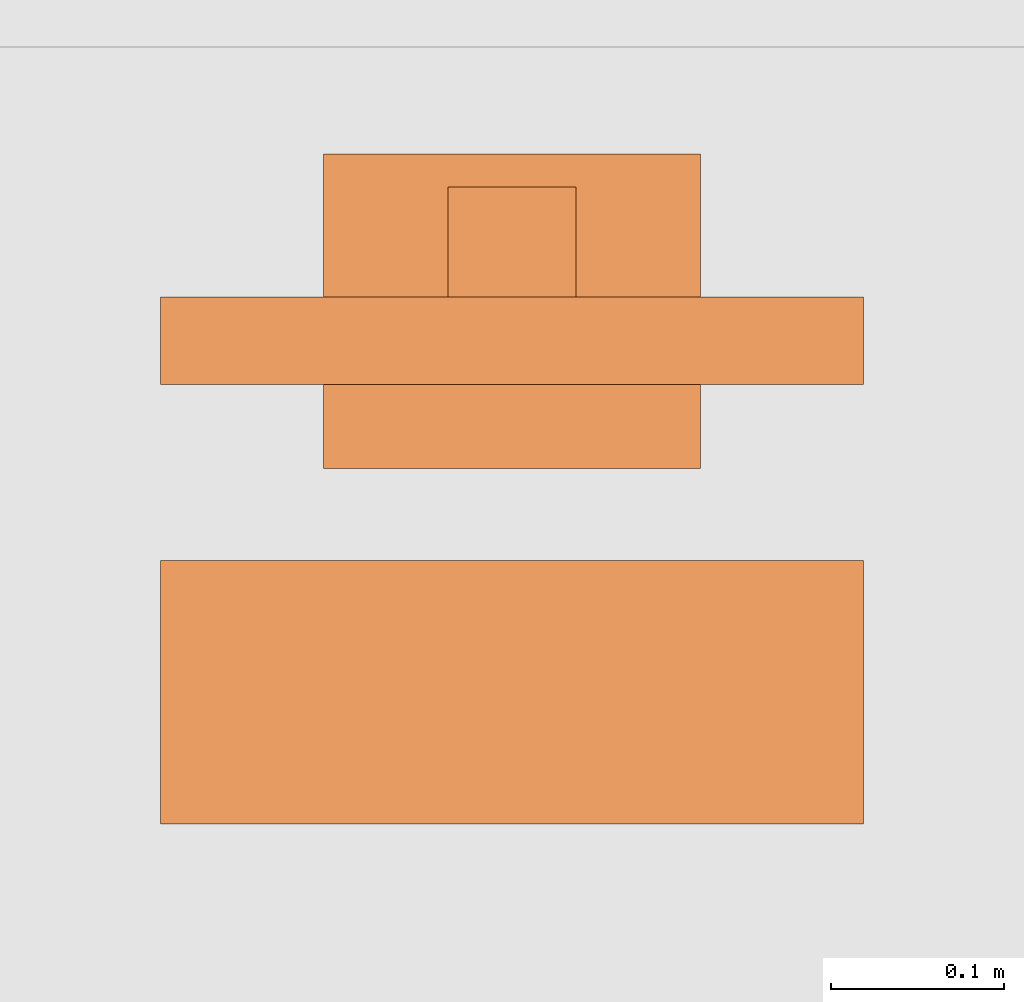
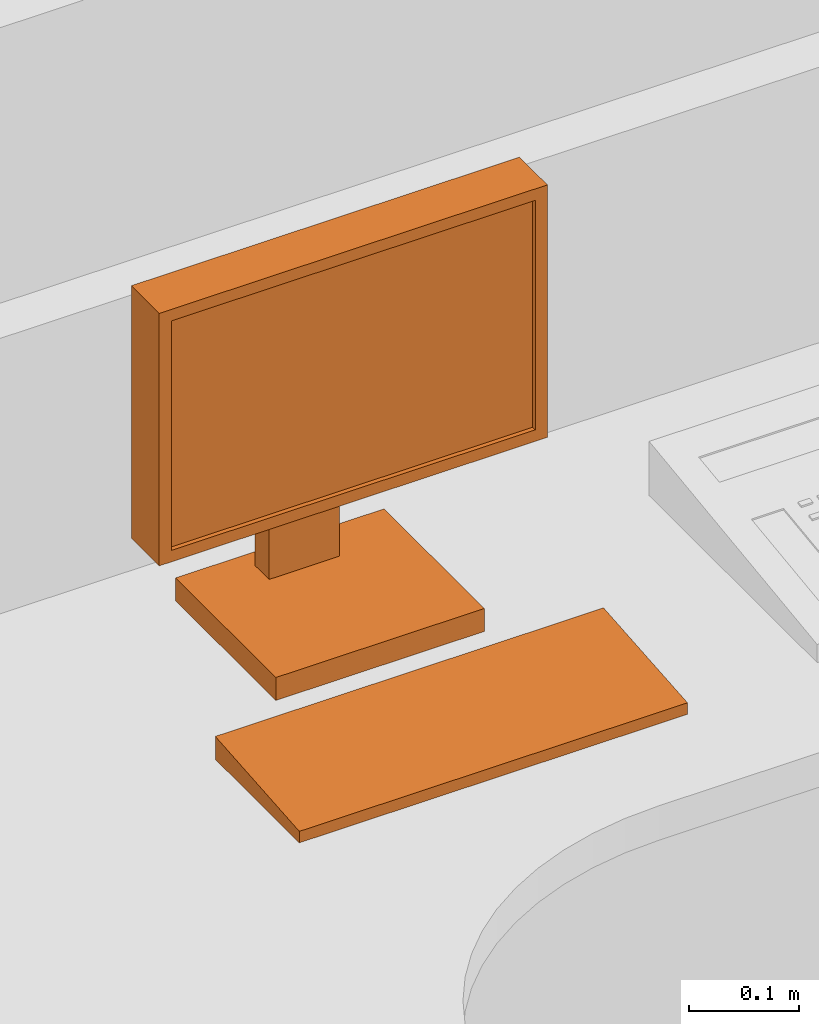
# One storey, part 133 of 142: 1 proxy.
"""IFC2X3 building model written with IfcOpenShell, lengths in feet."""

from ifc_helpers import new_model, entity, si_unit, converted_unit, derived_unit, direction, frame, origin, place, context, subcontext, project, spatial, faceted_brep, source, transform, mapped, type_object, type_shapes, element, save


model = new_model("IFC2X3")

# Units and contexts
model_context = context("Model", 3, precision=0.0001, world=origin(), true_north=direction((6.12303176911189e-17, 1.0)))
body_context = subcontext(model_context, "Body", "Model", "MODEL_VIEW")
ifc_project = project(units=[converted_unit("LENGTHUNIT", "FOOT", entity("IfcRatioMeasure", 0.3048), si_unit("LENGTHUNIT", "METRE"), dimensions=[1, 0, 0, 0, 0, 0, 0]), converted_unit("AREAUNIT", "SQUARE FOOT", entity("IfcRatioMeasure", 0.09290304), si_unit("AREAUNIT", "SQUARE_METRE"), dimensions=[2, 0, 0, 0, 0, 0, 0]), converted_unit("VOLUMEUNIT", "CUBIC FOOT", entity("IfcRatioMeasure", 0.028316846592), si_unit("VOLUMEUNIT", "CUBIC_METRE"), dimensions=[3, 0, 0, 0, 0, 0, 0]), converted_unit("PLANEANGLEUNIT", "DEGREE", entity("IfcRatioMeasure", 0.0174532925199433), si_unit("PLANEANGLEUNIT", "RADIAN"), dimensions=[0, 0, 0, 0, 0, 0, 0]), si_unit("MASSUNIT", "GRAM", prefix="KILO"), derived_unit("MASSDENSITYUNIT", [(si_unit("MASSUNIT", "GRAM", prefix="KILO"), 1), (si_unit("LENGTHUNIT", "METRE"), -3)]), si_unit("TIMEUNIT", "SECOND"), si_unit("FREQUENCYUNIT", "HERTZ"), si_unit("THERMODYNAMICTEMPERATUREUNIT", "DEGREE_CELSIUS"), derived_unit("THERMALTRANSMITTANCEUNIT", [(si_unit("MASSUNIT", "GRAM", prefix="KILO"), 1), (si_unit("THERMODYNAMICTEMPERATUREUNIT", "KELVIN"), -1), (si_unit("TIMEUNIT", "SECOND"), -3)]), derived_unit("VOLUMETRICFLOWRATEUNIT", [(si_unit("LENGTHUNIT", "METRE"), 3), (si_unit("TIMEUNIT", "SECOND"), -1)]), si_unit("ELECTRICCURRENTUNIT", "AMPERE"), si_unit("ELECTRICVOLTAGEUNIT", "VOLT"), si_unit("POWERUNIT", "WATT"), si_unit("FORCEUNIT", "NEWTON"), si_unit("ILLUMINANCEUNIT", "LUX"), si_unit("LUMINOUSFLUXUNIT", "LUMEN"), si_unit("LUMINOUSINTENSITYUNIT", "CANDELA"), derived_unit("USERDEFINED", [(si_unit("MASSUNIT", "GRAM", prefix="KILO"), -1), (si_unit("LENGTHUNIT", "METRE"), -2), (si_unit("TIMEUNIT", "SECOND"), 3), (si_unit("LUMINOUSFLUXUNIT", "LUMEN"), 1)]), derived_unit("LINEARVELOCITYUNIT", [(si_unit("LENGTHUNIT", "METRE"), 1), (si_unit("TIMEUNIT", "SECOND"), -1)]), si_unit("PRESSUREUNIT", "PASCAL"), derived_unit("USERDEFINED", [(si_unit("LENGTHUNIT", "METRE"), -2), (si_unit("MASSUNIT", "GRAM", prefix="KILO"), 1), (si_unit("TIMEUNIT", "SECOND"), -2)])], contexts=[model_context])

# Site, building, storey, space
site_placement = place(None, origin())
site = spatial("IfcSite", under=ifc_project, at=site_placement, Name="Default", CompositionType="ELEMENT")
building_placement = place(site_placement, origin())
building = spatial("IfcBuilding", under=site, at=building_placement, Name="OUTPATIENT / PACT CLINIC (Ch. 265)", CompositionType="ELEMENT")
storey_placement = place(building_placement, origin())
storey = spatial("IfcBuildingStorey", under=building, at=storey_placement, Name="LEVEL 1", CompositionType="ELEMENT", Elevation=0.0)
space_placement = place(storey_placement, origin())
space = spatial("IfcSpace", under=storey, at=space_placement, Name="WRTM1", CompositionType="ELEMENT", InteriorOrExteriorSpace="INTERNAL")

# Proxy
building_element_proxy_type = type_object("IfcBuildingElementProxyType", Name="M1801 - Computer with Flat Panel Monitor", PredefinedType="NOTDEFINED")
shared_shape = source(origin(), body_context, "Body", "Brep", [
    faceted_brep([(0.666666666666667, 0.5625, 0.0), (0.666666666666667, 0.5625, 0.0416666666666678), (0.666666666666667, 0.0624999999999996, 0.0833333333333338), (0.666666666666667, 0.0624999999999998, 0.0), (-0.666666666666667, 0.5625, 0.0), (-0.666666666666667, 0.0624999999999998, 0.0), (-0.666666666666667, 0.0624999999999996, 0.0833333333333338), (-0.666666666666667, 0.5625, 0.0416666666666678)], [[[0, 1, 2, 3]], [[4, 5, 6, 7]], [[3, 5, 4, 0]], [[2, 6, 5, 3]], [[1, 7, 6, 2]], [[0, 4, 7, 1]]]),
    faceted_brep([(0.666666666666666, -0.437223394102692, 1.41666666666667), (0.666666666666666, -0.271109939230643, 1.41666666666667), (-0.666666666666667, -0.271109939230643, 1.41666666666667), (-0.666666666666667, -0.437223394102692, 1.41666666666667), (0.666666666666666, -0.437223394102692, 0.500000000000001), (-0.666666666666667, -0.437223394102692, 0.500000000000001), (-0.666666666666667, -0.271109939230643, 0.500000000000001), (0.666666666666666, -0.271109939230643, 0.500000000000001), (-0.625, -0.271109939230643, 1.375), (-0.625, -0.271109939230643, 0.541666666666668), (0.625, -0.271109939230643, 0.541666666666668), (0.625, -0.271109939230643, 1.375), (0.625, -0.286812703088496, 1.375), (-0.625, -0.286812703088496, 1.375), (0.625, -0.286812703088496, 0.541666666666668), (-0.625, -0.286812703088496, 0.541666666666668)], [[[0, 1, 2, 3]], [[4, 5, 6, 7]], [[3, 5, 4, 0]], [[2, 6, 5, 3]], [[8, 9, 10, 11], [1, 7, 6, 2]], [[0, 4, 7, 1]], [[12, 13, 8, 11]], [[14, 10, 9, 15]], [[12, 14, 15, 13]], [[13, 15, 9, 8]], [[11, 10, 14, 12]]], outer=[[True], [True], [True], [True], [False, True], [True], [True], [True], [True], [True], [True]]),
    faceted_brep([(0.358011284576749, -0.111770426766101, 0.0833333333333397), (0.358011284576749, -0.708333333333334, 0.0833333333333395), (0.358011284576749, -0.708333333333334, 0.0), (0.358011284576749, -0.111770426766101, 0.0), (-0.358011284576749, -0.708333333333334, 0.0833333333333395), (-0.358011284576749, -0.111770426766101, 0.0833333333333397), (-0.358011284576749, -0.111770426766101, 0.0), (-0.358011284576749, -0.708333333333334, 0.0), (0.12128795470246, -0.645556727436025, 0.104166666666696), (-0.12128795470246, -0.645556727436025, 0.104166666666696), (-0.12128795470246, -0.645556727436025, 0.0833333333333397), (0.12128795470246, -0.645556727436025, 0.0833333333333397), (0.12128795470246, -0.645556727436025, 0.958333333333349), (-0.12128795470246, -0.645556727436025, 0.958333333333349), (0.12128795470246, -0.437223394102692, 0.958333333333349), (-0.12128795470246, -0.437223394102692, 0.958333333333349), (0.12128795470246, -0.437223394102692, 0.791666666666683), (-0.12128795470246, -0.437223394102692, 0.791666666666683), (0.12128795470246, -0.562223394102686, 0.791666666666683), (-0.12128795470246, -0.562223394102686, 0.791666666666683), (0.12128795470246, -0.562223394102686, 0.0833333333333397), (-0.12128795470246, -0.562223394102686, 0.0833333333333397)], [[[0, 1, 2, 3]], [[4, 5, 6, 7]], [[8, 9, 10, 11]], [[12, 13, 9, 8]], [[14, 15, 13, 12]], [[16, 17, 15, 14]], [[18, 19, 17, 16]], [[20, 21, 19, 18]], [[11, 10, 21, 20], [0, 5, 4, 1]], [[3, 6, 5, 0]], [[2, 7, 6, 3]], [[1, 4, 7, 2]], [[20, 18, 16, 14, 12, 8, 11]], [[10, 9, 13, 15, 17, 19, 21]]], outer=[[True], [True], [True], [True], [True], [True], [True], [True], [False, True], [True], [True], [True], [True], [True]]),
])
type_shapes(building_element_proxy_type, [shared_shape])
proxy_placement = place(space_placement, frame((421.669780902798, -877.489683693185, 2.49999999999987), z_axis=(0.0, 0.0, 1.0), x_axis=(-1.0, 0.0, 0.0)))
element("IfcBuildingElementProxy", 1, at=proxy_placement, inside=space, type_object=building_element_proxy_type, Name="M1801 - Computer with Flat Panel Monitor:M1801 - Computer with Flat Panel Monitor", ObjectType="M1801 - Computer with Flat Panel Monitor", context=body_context, shape_type="MappedRepresentation", body=[
    mapped(shared_shape, transform((0.0, 0.0, 0.0), scale=1.0)),
])

save(model, "model.ifc")
